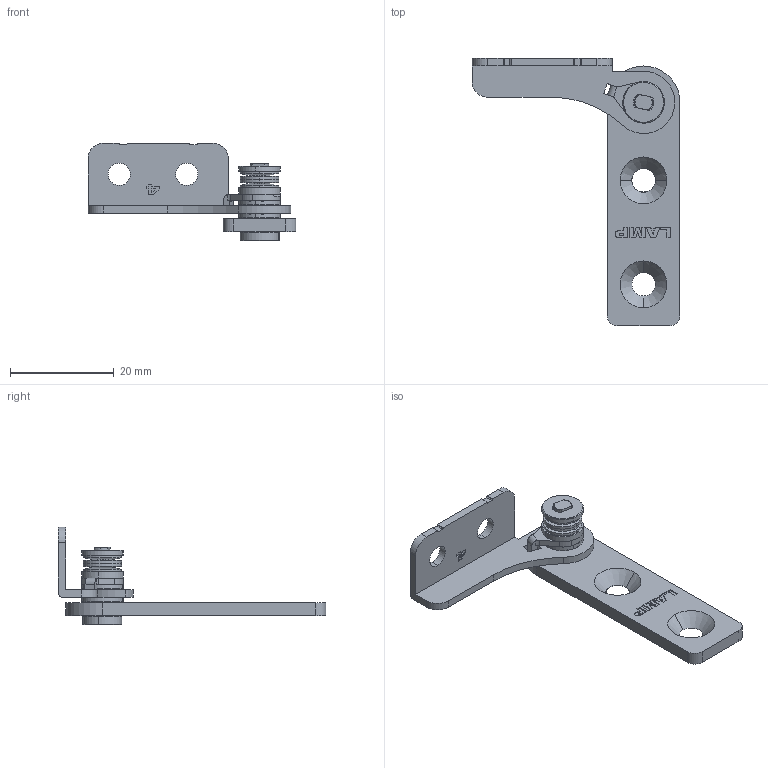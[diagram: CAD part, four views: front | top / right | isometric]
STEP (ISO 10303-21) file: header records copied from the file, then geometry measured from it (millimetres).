
FILE_DESCRIPTION (( 'STEP AP203' ), '1' );
FILE_NAME ('SC170-15284_HG-DTB4-L_ディテント_トルクヒンジ_1.step', '2018-05-11T06:11:19', ( '' ), ( '' ), 'SwSTEP 2.0', 'SolidWorks 2015', '' );
FILE_SCHEMA (( 'CONFIG_CONTROL_DESIGN' ));
Length unit declared in the file: millimetre
Products named in the file (9): SC170-15284_HG-DTB4-L_ディテント_トルクヒンジ_1; SC170-15287_HG-DTB型_ベースL; SC170-15259_HG-DT型_摩擦板; SC170-15258_HG-DT型_皿ばね; SC170-15286_HG-DTB4_シャフト; SC170-15280_HG-DT宆_僇儉A; SC170-15281_HG-DT宆_僇儉B; SC170-15253_HG-DT4宆_僽儔働僢僩L; SC170-15255_HG-DT型_プレート
Assembly tree (12 placements, depth 2):
  SC170-15284_HG-DTB4-L_ディテント_トルクヒンジ_1
    SC170-15287_HG-DTB型_ベースL
    SC170-15259_HG-DT型_摩擦板  x2
    SC170-15258_HG-DT型_皿ばね  x4
    SC170-15286_HG-DTB4_シャフト
    SC170-15280_HG-DT宆_僇儉A
    SC170-15281_HG-DT宆_僇儉B
    SC170-15253_HG-DT4宆_僽儔働僢僩L
    SC170-15255_HG-DT型_プレート
Bounding box: 40 x 51.5 x 18.8 mm (x, y, z)
Volume: 2873.1 mm3; surface area: 4419.3 mm2
Topology: 12 solids, 12 shells, 712 faces, 1589 edges, 1048 vertices
Faces by surface type: cylinder 385, plane 285, cone 36, bspline 4, torus 2
Entity records: 16582 total; most frequent: CARTESIAN_POINT 2984, DIRECTION 2825, ORIENTED_EDGE 2422, EDGE_CURVE 1211, AXIS2_PLACEMENT_3D 1117, VERTEX_POINT 804, EDGE_LOOP 657, LINE 591
